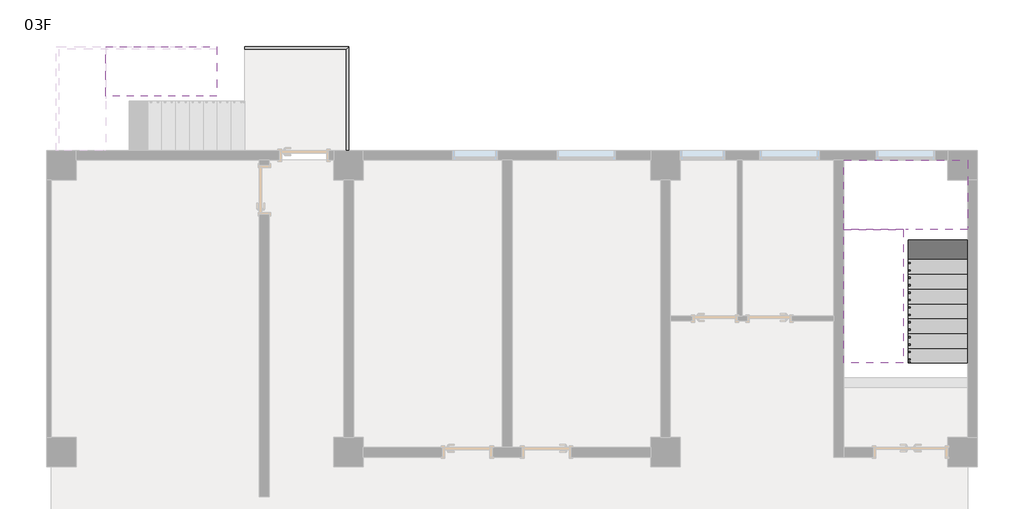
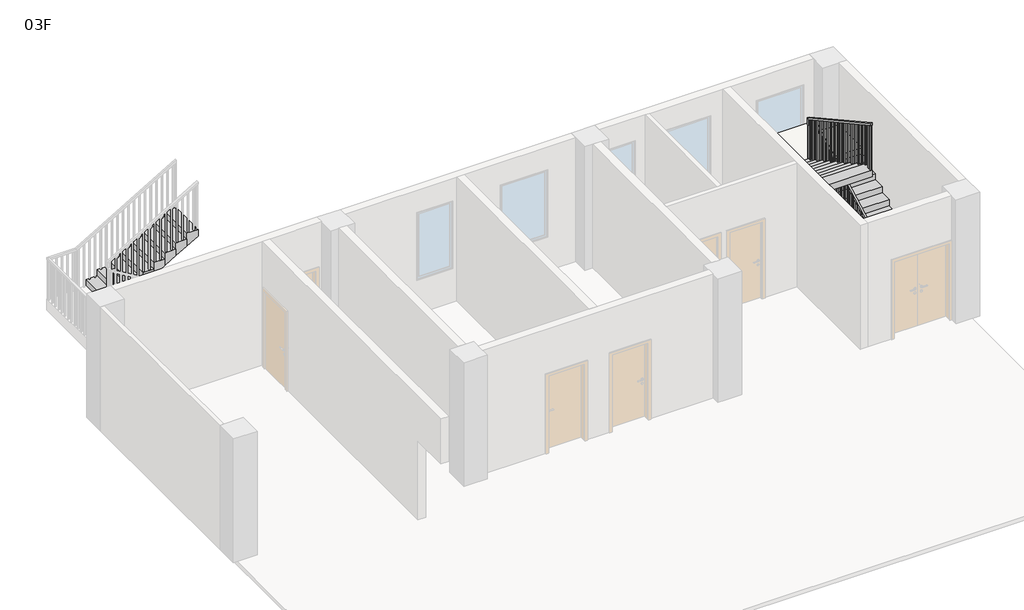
# One storey, part 3 of 3: 3 stair flights, 2 railings, 1 slab.
"""IFC4 building model written with IfcOpenShell, lengths in millimetres."""

from ifc_helpers import new_model, si_unit, frame, origin, place, context, project, spatial, polyline, outline, extrude, faceted_brep, element, save

model = new_model("IFC4")

# Units and contexts
model_context = context("Model", 3, world=origin())
ifc_project = project(units=[si_unit("LENGTHUNIT", "METRE", prefix="MILLI")], contexts=[model_context])

# Site, building, storey
site = spatial("IfcSite", under=ifc_project)
building = spatial("IfcBuilding", under=site)
storey = spatial("IfcBuildingStorey", under=building, Name="03F", Elevation=7200.0)

# Railings
placement = place(None, origin())
element("IfcRailing", 1, ObjectType="1100mm", at=placement, inside=storey, context=model_context, shape_type="SolidModel", body=[
    faceted_brep([(17300.4, 9300.0, 8465.0), (17300.4, 9300.0, 8407.9364389), (17350.4, 9300.0, 8407.9364389), (17350.4, 9300.0, 8465.0), (17300.4, 11925.4, 9908.97), (17300.4, 11975.4, 9879.4064389), (17350.4, 11975.4, 9879.4064389), (17350.4, 11925.4, 9908.97), (17300.4, 11925.4, 9950.0), (17300.4, 11975.4, 9900.0), (17350.4, 11975.4, 9900.0), (17350.4, 11925.4, 9950.0), (17300.4, 12000.4, 9950.0), (17300.4, 12000.4, 9900.0), (17350.4, 12050.4, 9900.0), (17350.4, 12050.4, 9950.0), (17225.4, 12000.4, 9950.0), (17225.4, 12000.4, 9900.0), (17225.4, 12050.4, 9900.0), (17225.4, 12050.4, 9950.0), (17199.6, 12000.4, 9950.0), (17199.6, 12050.4, 9950.0), (17149.6, 12050.4, 9900.0), (17149.6, 12000.4, 9900.0)], [[[0, 1, 2, 3]], [[1, 0, 4, 5]], [[2, 1, 5, 6]], [[3, 2, 6, 7]], [[0, 3, 7, 4]], [[5, 4, 8, 9]], [[6, 5, 9, 10]], [[7, 6, 10, 11]], [[4, 7, 11, 8]], [[9, 8, 12, 13]], [[10, 9, 13, 14]], [[11, 10, 14, 15]], [[8, 11, 15, 12]], [[13, 12, 16, 17]], [[14, 13, 17, 18]], [[15, 14, 18, 19]], [[12, 15, 19, 16]], [[20, 21, 22, 23]], [[17, 16, 20, 23]], [[18, 17, 23, 22]], [[19, 18, 22, 21]], [[16, 19, 21, 20]]]),
    faceted_brep([(17199.6, 12000.4, 9950.0), (17149.6, 12000.4, 9900.0), (17149.6, 12050.4, 9900.0), (17199.6, 12050.4, 9950.0), (17199.6, 12000.4, 10057.7164389), (17199.6, 12050.4, 10087.28), (17149.6, 12050.4, 10087.28), (17149.6, 12000.4, 10057.7164389)], [[[0, 1, 2, 3]], [[4, 5, 6, 7]], [[1, 0, 4, 7]], [[2, 1, 7, 6]], [[3, 2, 6, 5]], [[0, 3, 5, 4]]]),
    faceted_brep([(17199.6, 12050.4, 10087.28), (17199.6, 12000.4, 10057.7164389), (17149.6, 12000.4, 10057.7164389), (17149.6, 12050.4, 10087.28), (17199.6, 9300.0, 11600.0), (17149.6, 9300.0, 11600.0), (17149.6, 9300.0, 11542.9364389), (17199.6, 9300.0, 11542.9364389)], [[[0, 1, 2, 3]], [[4, 5, 6, 7]], [[1, 0, 4, 7]], [[2, 1, 7, 6]], [[3, 2, 6, 5]], [[0, 3, 5, 4]]]),
    extrude(outline(polyline([(9412.9, 10335.0), (9387.9, 10335.0), (9387.9, 11494.5914389), (9412.9, 11480.8414389), (9412.9, 10335.0)])), frame((17162.1, 0.0, 0.0), z_axis=(1.0, 0.0, 0.0), x_axis=(0.0, 1.0, 0.0)), (0.0, 0.0, 1.0), 25.0),
    extrude(outline(polyline([(9562.9, 10335.0), (9537.9, 10335.0), (9537.9, 11412.0914389), (9562.9, 11398.3414389), (9562.9, 10335.0)])), frame((17162.1, 0.0, 0.0), z_axis=(1.0, 0.0, 0.0), x_axis=(0.0, 1.0, 0.0)), (0.0, 0.0, 1.0), 25.0),
    extrude(outline(polyline([(9712.9, 10170.0), (9687.9, 10170.0), (9687.9, 11329.5914389), (9712.9, 11315.8414389), (9712.9, 10170.0)])), frame((17162.1, 0.0, 0.0), z_axis=(1.0, 0.0, 0.0), x_axis=(0.0, 1.0, 0.0)), (0.0, 0.0, 1.0), 25.0),
    extrude(outline(polyline([(9862.9, 10170.0), (9837.9, 10170.0), (9837.9, 11247.0914389), (9862.9, 11233.3414389), (9862.9, 10170.0)])), frame((17162.1, 0.0, 0.0), z_axis=(1.0, 0.0, 0.0), x_axis=(0.0, 1.0, 0.0)), (0.0, 0.0, 1.0), 25.0),
    extrude(outline(polyline([(10012.9, 10005.0), (9987.9, 10005.0), (9987.9, 11164.5914389), (10012.9, 11150.8414389), (10012.9, 10005.0)])), frame((17162.1, 0.0, 0.0), z_axis=(1.0, 0.0, 0.0), x_axis=(0.0, 1.0, 0.0)), (0.0, 0.0, 1.0), 25.0),
    extrude(outline(polyline([(10162.9, 10005.0), (10137.9, 10005.0), (10137.9, 11082.0914389), (10162.9, 11068.3414389), (10162.9, 10005.0)])), frame((17162.1, 0.0, 0.0), z_axis=(1.0, 0.0, 0.0), x_axis=(0.0, 1.0, 0.0)), (0.0, 0.0, 1.0), 25.0),
    extrude(outline(polyline([(10312.9, 9840.0), (10287.9, 9840.0), (10287.9, 10999.5914389), (10312.9, 10985.8414389), (10312.9, 9840.0)])), frame((17162.1, 0.0, 0.0), z_axis=(1.0, 0.0, 0.0), x_axis=(0.0, 1.0, 0.0)), (0.0, 0.0, 1.0), 25.0),
    extrude(outline(polyline([(10462.9, 9840.0), (10437.9, 9840.0), (10437.9, 10917.0914389), (10462.9, 10903.3414389), (10462.9, 9840.0)])), frame((17162.1, 0.0, 0.0), z_axis=(1.0, 0.0, 0.0), x_axis=(0.0, 1.0, 0.0)), (0.0, 0.0, 1.0), 25.0),
    extrude(outline(polyline([(10612.9, 9675.0), (10587.9, 9675.0), (10587.9, 10834.5914389), (10612.9, 10820.8414389), (10612.9, 9675.0)])), frame((17162.1, 0.0, 0.0), z_axis=(1.0, 0.0, 0.0), x_axis=(0.0, 1.0, 0.0)), (0.0, 0.0, 1.0), 25.0),
    extrude(outline(polyline([(10762.9, 9675.0), (10737.9, 9675.0), (10737.9, 10752.0914389), (10762.9, 10738.3414389), (10762.9, 9675.0)])), frame((17162.1, 0.0, 0.0), z_axis=(1.0, 0.0, 0.0), x_axis=(0.0, 1.0, 0.0)), (0.0, 0.0, 1.0), 25.0),
    extrude(outline(polyline([(10912.9, 9510.0), (10887.9, 9510.0), (10887.9, 10669.5914389), (10912.9, 10655.8414389), (10912.9, 9510.0)])), frame((17162.1, 0.0, 0.0), z_axis=(1.0, 0.0, 0.0), x_axis=(0.0, 1.0, 0.0)), (0.0, 0.0, 1.0), 25.0),
    extrude(outline(polyline([(11062.9, 9510.0), (11037.9, 9510.0), (11037.9, 10587.0914389), (11062.9, 10573.3414389), (11062.9, 9510.0)])), frame((17162.1, 0.0, 0.0), z_axis=(1.0, 0.0, 0.0), x_axis=(0.0, 1.0, 0.0)), (0.0, 0.0, 1.0), 25.0),
    extrude(outline(polyline([(11212.9, 9345.0), (11187.9, 9345.0), (11187.9, 10504.5914389), (11212.9, 10490.8414389), (11212.9, 9345.0)])), frame((17162.1, 0.0, 0.0), z_axis=(1.0, 0.0, 0.0), x_axis=(0.0, 1.0, 0.0)), (0.0, 0.0, 1.0), 25.0),
    extrude(outline(polyline([(11362.9, 9345.0), (11337.9, 9345.0), (11337.9, 10422.0914389), (11362.9, 10408.3414389), (11362.9, 9345.0)])), frame((17162.1, 0.0, 0.0), z_axis=(1.0, 0.0, 0.0), x_axis=(0.0, 1.0, 0.0)), (0.0, 0.0, 1.0), 25.0),
    extrude(outline(polyline([(11512.9, 9180.0), (11487.9, 9180.0), (11487.9, 10339.5914389), (11512.9, 10325.8414389), (11512.9, 9180.0)])), frame((17162.1, 0.0, 0.0), z_axis=(1.0, 0.0, 0.0), x_axis=(0.0, 1.0, 0.0)), (0.0, 0.0, 1.0), 25.0),
    extrude(outline(polyline([(11662.9, 9180.0), (11637.9, 9180.0), (11637.9, 10257.0914389), (11662.9, 10243.3414389), (11662.9, 9180.0)])), frame((17162.1, 0.0, 0.0), z_axis=(1.0, 0.0, 0.0), x_axis=(0.0, 1.0, 0.0)), (0.0, 0.0, 1.0), 25.0),
    extrude(outline(polyline([(11812.9, 9015.0), (11787.9, 9015.0), (11787.9, 10174.5914389), (11812.9, 10160.8414389), (11812.9, 9015.0)])), frame((17162.1, 0.0, 0.0), z_axis=(1.0, 0.0, 0.0), x_axis=(0.0, 1.0, 0.0)), (0.0, 0.0, 1.0), 25.0),
    extrude(outline(polyline([(11962.9, 9015.0), (11937.9, 9015.0), (11937.9, 10092.0914389), (11962.9, 10078.3414389), (11962.9, 9015.0)])), frame((17162.1, 0.0, 0.0), z_axis=(1.0, 0.0, 0.0), x_axis=(0.0, 1.0, 0.0)), (0.0, 0.0, 1.0), 25.0),
    extrude(outline(polyline([(17262.9, 12012.9), (17237.9, 12012.9), (17237.9, 12037.9), (17262.9, 12037.9), (17262.9, 12012.9)])), frame((0.0, 0.0, 8850.0), z_axis=(0.0, 0.0, 1.0), x_axis=(1.0, 0.0, 0.0)), (0.0, 0.0, 1.0), 1050.0),
    extrude(outline(polyline([(11912.5, 9844.8114389), (11937.5, 9858.5614389), (11937.5, 8685.0), (11912.5, 8685.0), (11912.5, 9844.8114389)])), frame((17312.9, 0.0, 0.0), z_axis=(1.0, 0.0, 0.0), x_axis=(0.0, 1.0, 0.0)), (0.0, 0.0, 1.0), 25.0),
    extrude(outline(polyline([(11762.5, 9762.3114389), (11787.5, 9776.0614389), (11787.5, 8685.0), (11762.5, 8685.0), (11762.5, 9762.3114389)])), frame((17312.9, 0.0, 0.0), z_axis=(1.0, 0.0, 0.0), x_axis=(0.0, 1.0, 0.0)), (0.0, 0.0, 1.0), 25.0),
    extrude(outline(polyline([(11612.5, 9679.8114389), (11637.5, 9693.5614389), (11637.5, 8520.0), (11612.5, 8520.0), (11612.5, 9679.8114389)])), frame((17312.9, 0.0, 0.0), z_axis=(1.0, 0.0, 0.0), x_axis=(0.0, 1.0, 0.0)), (0.0, 0.0, 1.0), 25.0),
    extrude(outline(polyline([(11462.5, 9597.3114389), (11487.5, 9611.0614389), (11487.5, 8520.0), (11462.5, 8520.0), (11462.5, 9597.3114389)])), frame((17312.9, 0.0, 0.0), z_axis=(1.0, 0.0, 0.0), x_axis=(0.0, 1.0, 0.0)), (0.0, 0.0, 1.0), 25.0),
    extrude(outline(polyline([(11312.5, 9514.8114389), (11337.5, 9528.5614389), (11337.5, 8355.0), (11312.5, 8355.0), (11312.5, 9514.8114389)])), frame((17312.9, 0.0, 0.0), z_axis=(1.0, 0.0, 0.0), x_axis=(0.0, 1.0, 0.0)), (0.0, 0.0, 1.0), 25.0),
    extrude(outline(polyline([(11162.5, 9432.3114389), (11187.5, 9446.0614389), (11187.5, 8355.0), (11162.5, 8355.0), (11162.5, 9432.3114389)])), frame((17312.9, 0.0, 0.0), z_axis=(1.0, 0.0, 0.0), x_axis=(0.0, 1.0, 0.0)), (0.0, 0.0, 1.0), 25.0),
    extrude(outline(polyline([(11012.5, 9349.8114389), (11037.5, 9363.5614389), (11037.5, 8190.0), (11012.5, 8190.0), (11012.5, 9349.8114389)])), frame((17312.9, 0.0, 0.0), z_axis=(1.0, 0.0, 0.0), x_axis=(0.0, 1.0, 0.0)), (0.0, 0.0, 1.0), 25.0),
    extrude(outline(polyline([(10862.5, 9267.3114389), (10887.5, 9281.0614389), (10887.5, 8190.0), (10862.5, 8190.0), (10862.5, 9267.3114389)])), frame((17312.9, 0.0, 0.0), z_axis=(1.0, 0.0, 0.0), x_axis=(0.0, 1.0, 0.0)), (0.0, 0.0, 1.0), 25.0),
    extrude(outline(polyline([(10712.5, 9184.8114389), (10737.5, 9198.5614389), (10737.5, 8025.0), (10712.5, 8025.0), (10712.5, 9184.8114389)])), frame((17312.9, 0.0, 0.0), z_axis=(1.0, 0.0, 0.0), x_axis=(0.0, 1.0, 0.0)), (0.0, 0.0, 1.0), 25.0),
    extrude(outline(polyline([(10562.5, 9102.3114389), (10587.5, 9116.0614389), (10587.5, 8025.0), (10562.5, 8025.0), (10562.5, 9102.3114389)])), frame((17312.9, 0.0, 0.0), z_axis=(1.0, 0.0, 0.0), x_axis=(0.0, 1.0, 0.0)), (0.0, 0.0, 1.0), 25.0),
    extrude(outline(polyline([(10412.5, 9019.8114389), (10437.5, 9033.5614389), (10437.5, 7860.0), (10412.5, 7860.0), (10412.5, 9019.8114389)])), frame((17312.9, 0.0, 0.0), z_axis=(1.0, 0.0, 0.0), x_axis=(0.0, 1.0, 0.0)), (0.0, 0.0, 1.0), 25.0),
    extrude(outline(polyline([(10262.5, 8937.3114389), (10287.5, 8951.0614389), (10287.5, 7860.0), (10262.5, 7860.0), (10262.5, 8937.3114389)])), frame((17312.9, 0.0, 0.0), z_axis=(1.0, 0.0, 0.0), x_axis=(0.0, 1.0, 0.0)), (0.0, 0.0, 1.0), 25.0),
    extrude(outline(polyline([(10112.5, 8854.8114389), (10137.5, 8868.5614389), (10137.5, 7695.0), (10112.5, 7695.0), (10112.5, 8854.8114389)])), frame((17312.9, 0.0, 0.0), z_axis=(1.0, 0.0, 0.0), x_axis=(0.0, 1.0, 0.0)), (0.0, 0.0, 1.0), 25.0),
    extrude(outline(polyline([(9962.5, 8772.3114389), (9987.5, 8786.0614389), (9987.5, 7695.0), (9962.5, 7695.0), (9962.5, 8772.3114389)])), frame((17312.9, 0.0, 0.0), z_axis=(1.0, 0.0, 0.0), x_axis=(0.0, 1.0, 0.0)), (0.0, 0.0, 1.0), 25.0),
    extrude(outline(polyline([(9812.5, 8689.8114389), (9837.5, 8703.5614389), (9837.5, 7530.0), (9812.5, 7530.0), (9812.5, 8689.8114389)])), frame((17312.9, 0.0, 0.0), z_axis=(1.0, 0.0, 0.0), x_axis=(0.0, 1.0, 0.0)), (0.0, 0.0, 1.0), 25.0),
    extrude(outline(polyline([(9662.5, 8607.3114389), (9687.5, 8621.0614389), (9687.5, 7530.0), (9662.5, 7530.0), (9662.5, 8607.3114389)])), frame((17312.9, 0.0, 0.0), z_axis=(1.0, 0.0, 0.0), x_axis=(0.0, 1.0, 0.0)), (0.0, 0.0, 1.0), 25.0),
    extrude(outline(polyline([(9512.5, 8524.8114389), (9537.5, 8538.5614389), (9537.5, 7365.0), (9512.5, 7365.0), (9512.5, 8524.8114389)])), frame((17312.9, 0.0, 0.0), z_axis=(1.0, 0.0, 0.0), x_axis=(0.0, 1.0, 0.0)), (0.0, 0.0, 1.0), 25.0),
    extrude(outline(polyline([(9362.5, 8442.3114389), (9387.5, 8456.0614389), (9387.5, 7365.0), (9362.5, 7365.0), (9362.5, 8442.3114389)])), frame((17312.9, 0.0, 0.0), z_axis=(1.0, 0.0, 0.0), x_axis=(0.0, 1.0, 0.0)), (0.0, 0.0, 1.0), 25.0),
    extrude(outline(polyline([(17187.1, 12037.9), (17187.1, 12012.9), (17162.1, 12012.9), (17162.1, 12037.9), (17187.1, 12037.9)])), frame((0.0, 0.0, 8850.0), z_axis=(0.0, 0.0, 1.0), x_axis=(1.0, 0.0, 0.0)), (0.0, 0.0, 1.0), 1050.0),
    extrude(outline(polyline([(17312.9, 12012.9), (17312.9, 12037.9), (17337.9, 12037.9), (17337.9, 12012.9), (17312.9, 12012.9)])), frame((0.0, 0.0, 8850.0), z_axis=(0.0, 0.0, 1.0), x_axis=(1.0, 0.0, 0.0)), (0.0, 0.0, 1.0), 1050.0),
    extrude(outline(polyline([(17312.9, 11987.5), (17312.9, 12012.5), (17337.9, 12012.5), (17337.9, 11987.5), (17312.9, 11987.5)])), frame((0.0, 0.0, 8850.0), z_axis=(0.0, 0.0, 1.0), x_axis=(1.0, 0.0, 0.0)), (0.0, 0.0, 1.0), 1050.0),
    extrude(outline(polyline([(9325.0, 10335.0), (9300.0, 10335.0), (9300.0, 11542.9364389), (9325.0, 11529.1864389), (9325.0, 10335.0)])), frame((17162.1, 0.0, 0.0), z_axis=(1.0, 0.0, 0.0), x_axis=(0.0, 1.0, 0.0)), (0.0, 0.0, 1.0), 25.0),
    extrude(outline(polyline([(9300.0, 8407.9364389), (9325.0, 8421.6864389), (9325.0, 7365.0), (9300.0, 7365.0), (9300.0, 8407.9364389)])), frame((17312.9, 0.0, 0.0), z_axis=(1.0, 0.0, 0.0), x_axis=(0.0, 1.0, 0.0)), (0.0, 0.0, 1.0), 25.0),
])
element("IfcRailing", 2, ObjectType="1100mm", at=placement, inside=storey, context=model_context, shape_type="SolidModel", body=[
    faceted_brep([(3900.0, 15699.6, 8300.0), (3900.0, 15699.6, 8250.0), (3900.0, 15649.6, 8250.0), (3900.0, 15649.6, 8300.0), (6000.0, 15699.6, 8300.0), (6000.0, 15699.6, 8250.0), (5950.0, 15649.6, 8250.0), (5950.0, 15649.6, 8300.0), (6000.0, 13600.0, 8300.0), (5950.0, 13600.0, 8300.0), (5950.0, 13600.0, 8250.0), (6000.0, 13600.0, 8250.0)], [[[0, 1, 2, 3]], [[1, 0, 4, 5]], [[2, 1, 5, 6]], [[3, 2, 6, 7]], [[0, 3, 7, 4]], [[8, 9, 10, 11]], [[5, 4, 8, 11]], [[6, 5, 11, 10]], [[7, 6, 10, 9]], [[4, 7, 9, 8]]]),
    extrude(outline(polyline([(5962.5, 13762.1), (5987.5, 13762.1), (5987.5, 13737.1), (5962.5, 13737.1), (5962.5, 13762.1)])), frame((0.0, 0.0, 7200.0), z_axis=(0.0, 0.0, 1.0), x_axis=(1.0, 0.0, 0.0)), (0.0, 0.0, 1.0), 1050.0),
    extrude(outline(polyline([(5962.5, 14037.1), (5987.5, 14037.1), (5987.5, 14012.1), (5962.5, 14012.1), (5962.5, 14037.1)])), frame((0.0, 0.0, 7200.0), z_axis=(0.0, 0.0, 1.0), x_axis=(1.0, 0.0, 0.0)), (0.0, 0.0, 1.0), 1050.0),
    extrude(outline(polyline([(5962.5, 14312.1), (5987.5, 14312.1), (5987.5, 14287.1), (5962.5, 14287.1), (5962.5, 14312.1)])), frame((0.0, 0.0, 7200.0), z_axis=(0.0, 0.0, 1.0), x_axis=(1.0, 0.0, 0.0)), (0.0, 0.0, 1.0), 1050.0),
    extrude(outline(polyline([(5962.5, 14587.1), (5987.5, 14587.1), (5987.5, 14562.1), (5962.5, 14562.1), (5962.5, 14587.1)])), frame((0.0, 0.0, 7200.0), z_axis=(0.0, 0.0, 1.0), x_axis=(1.0, 0.0, 0.0)), (0.0, 0.0, 1.0), 1050.0),
    extrude(outline(polyline([(5962.5, 14862.1), (5987.5, 14862.1), (5987.5, 14837.1), (5962.5, 14837.1), (5962.5, 14862.1)])), frame((0.0, 0.0, 7200.0), z_axis=(0.0, 0.0, 1.0), x_axis=(1.0, 0.0, 0.0)), (0.0, 0.0, 1.0), 1050.0),
    extrude(outline(polyline([(5962.5, 15137.1), (5987.5, 15137.1), (5987.5, 15112.1), (5962.5, 15112.1), (5962.5, 15137.1)])), frame((0.0, 0.0, 7200.0), z_axis=(0.0, 0.0, 1.0), x_axis=(1.0, 0.0, 0.0)), (0.0, 0.0, 1.0), 1050.0),
    extrude(outline(polyline([(5962.5, 15412.1), (5987.5, 15412.1), (5987.5, 15387.1), (5962.5, 15387.1), (5962.5, 15412.1)])), frame((0.0, 0.0, 7200.0), z_axis=(0.0, 0.0, 1.0), x_axis=(1.0, 0.0, 0.0)), (0.0, 0.0, 1.0), 1050.0),
    extrude(outline(polyline([(5812.5, 15662.1), (5812.5, 15687.1), (5837.5, 15687.1), (5837.5, 15662.1), (5812.5, 15662.1)])), frame((0.0, 0.0, 7200.0), z_axis=(0.0, 0.0, 1.0), x_axis=(1.0, 0.0, 0.0)), (0.0, 0.0, 1.0), 1050.0),
    extrude(outline(polyline([(5537.5, 15662.1), (5537.5, 15687.1), (5562.5, 15687.1), (5562.5, 15662.1), (5537.5, 15662.1)])), frame((0.0, 0.0, 7200.0), z_axis=(0.0, 0.0, 1.0), x_axis=(1.0, 0.0, 0.0)), (0.0, 0.0, 1.0), 1050.0),
    extrude(outline(polyline([(5262.5, 15662.1), (5262.5, 15687.1), (5287.5, 15687.1), (5287.5, 15662.1), (5262.5, 15662.1)])), frame((0.0, 0.0, 7200.0), z_axis=(0.0, 0.0, 1.0), x_axis=(1.0, 0.0, 0.0)), (0.0, 0.0, 1.0), 1050.0),
    extrude(outline(polyline([(4987.5, 15662.1), (4987.5, 15687.1), (5012.5, 15687.1), (5012.5, 15662.1), (4987.5, 15662.1)])), frame((0.0, 0.0, 7200.0), z_axis=(0.0, 0.0, 1.0), x_axis=(1.0, 0.0, 0.0)), (0.0, 0.0, 1.0), 1050.0),
    extrude(outline(polyline([(4712.5, 15662.1), (4712.5, 15687.1), (4737.5, 15687.1), (4737.5, 15662.1), (4712.5, 15662.1)])), frame((0.0, 0.0, 7200.0), z_axis=(0.0, 0.0, 1.0), x_axis=(1.0, 0.0, 0.0)), (0.0, 0.0, 1.0), 1050.0),
    extrude(outline(polyline([(4437.5, 15662.1), (4437.5, 15687.1), (4462.5, 15687.1), (4462.5, 15662.1), (4437.5, 15662.1)])), frame((0.0, 0.0, 7200.0), z_axis=(0.0, 0.0, 1.0), x_axis=(1.0, 0.0, 0.0)), (0.0, 0.0, 1.0), 1050.0),
    extrude(outline(polyline([(4162.5, 15662.1), (4162.5, 15687.1), (4187.5, 15687.1), (4187.5, 15662.1), (4162.5, 15662.1)])), frame((0.0, 0.0, 7200.0), z_axis=(0.0, 0.0, 1.0), x_axis=(1.0, 0.0, 0.0)), (0.0, 0.0, 1.0), 1050.0),
    extrude(outline(polyline([(5962.5, 15662.1), (5962.5, 15687.1), (5987.5, 15687.1), (5987.5, 15662.1), (5962.5, 15662.1)])), frame((0.0, 0.0, 7200.0), z_axis=(0.0, 0.0, 1.0), x_axis=(1.0, 0.0, 0.0)), (0.0, 0.0, 1.0), 1050.0),
    extrude(outline(polyline([(5962.5, 13625.0), (5987.5, 13625.0), (5987.5, 13600.0), (5962.5, 13600.0), (5962.5, 13625.0)])), frame((0.0, 0.0, 7200.0), z_axis=(0.0, 0.0, 1.0), x_axis=(1.0, 0.0, 0.0)), (0.0, 0.0, 1.0), 1050.0),
    extrude(outline(polyline([(3900.0, 15662.1), (3900.0, 15687.1), (3925.0, 15687.1), (3925.0, 15662.1), (3900.0, 15662.1)])), frame((0.0, 0.0, 7200.0), z_axis=(0.0, 0.0, 1.0), x_axis=(1.0, 0.0, 0.0)), (0.0, 0.0, 1.0), 1050.0),
])

# Slab
element("IfcSlab", 3, ObjectType="300mm 厚度", at=placement, inside=storey, context=model_context, shape_type="Brep", body=[
    faceted_brep([(17300.0, 12000.0, 8850.0), (18500.0, 12000.0, 8850.0), (18500.0, 12065.8012421, 8850.0), (18500.0, 13400.0, 8850.0), (16000.0, 13400.0, 8850.0), (16000.0, 12234.1987579, 8850.0), (16000.0, 12000.0, 8850.0), (17200.0, 12000.0, 8850.0), (17300.0, 12000.0, 8550.0), (17300.0, 12000.0, 8513.8093168), (18500.0, 12000.0, 8513.8093168), (18500.0, 12000.0, 8685.0), (18500.0, 12065.8012421, 8550.0), (18500.0, 13400.0, 8550.0), (16000.0, 13400.0, 8550.0), (16000.0, 12234.1987579, 8550.0), (16000.0, 12000.0, 8678.8093168), (17200.0, 12000.0, 8678.8093168), (17200.0, 12000.0, 8550.0), (17200.0, 12234.1987579, 8550.0), (17300.0, 12065.8012421, 8550.0)], [[[0, 1, 2, 3, 4, 5, 6, 7]], [[1, 0, 8, 9, 10, 11]], [[1, 11, 10, 12, 13, 3, 2]], [[4, 3, 13, 14]], [[4, 14, 15, 16, 6, 5]], [[7, 6, 16, 17]], [[0, 7, 17, 18, 8]], [[18, 19, 15, 14, 13, 12, 20, 8]], [[19, 18, 17]], [[20, 12, 10, 9]], [[8, 20, 9]], [[15, 19, 17, 16]]]),
])

# Stair flights
element("IfcStairFlight", 4, ObjectType="150mm 结构深度", at=placement, inside=storey, context=model_context, shape_type="Brep", body=[
    faceted_brep([(17300.0, 9600.0, 7365.0), (17300.0, 9300.0, 7365.0), (18500.0, 9300.0, 7365.0), (18500.0, 9600.0, 7365.0), (17300.0, 9600.0, 7200.0), (17300.0, 9300.0, 7200.0), (18500.0, 9300.0, 7200.0), (18500.0, 9600.0, 7200.0), (17300.0, 9900.0, 7530.0), (17300.0, 9600.0, 7530.0), (18500.0, 9600.0, 7530.0), (18500.0, 9900.0, 7530.0), (17300.0, 9900.0, 7358.8093168), (17300.0, 9611.2557876, 7200.0), (18500.0, 9611.2557876, 7200.0), (18500.0, 9900.0, 7358.8093168), (17300.0, 10200.0, 7695.0), (17300.0, 9900.0, 7695.0), (18500.0, 9900.0, 7695.0), (18500.0, 10200.0, 7695.0), (17300.0, 10200.0, 7523.8093168), (18500.0, 10200.0, 7523.8093168), (17300.0, 10500.0, 7860.0), (17300.0, 10200.0, 7860.0), (18500.0, 10200.0, 7860.0), (18500.0, 10500.0, 7860.0), (17300.0, 10500.0, 7688.8093168), (18500.0, 10500.0, 7688.8093168), (17300.0, 10800.0, 8025.0), (17300.0, 10500.0, 8025.0), (18500.0, 10500.0, 8025.0), (18500.0, 10800.0, 8025.0), (17300.0, 10800.0, 7853.8093168), (18500.0, 10800.0, 7853.8093168), (17300.0, 11100.0, 8190.0), (17300.0, 10800.0, 8190.0), (18500.0, 10800.0, 8190.0), (18500.0, 11100.0, 8190.0), (17300.0, 11100.0, 8018.8093168), (18500.0, 11100.0, 8018.8093168), (17300.0, 11400.0, 8355.0), (17300.0, 11100.0, 8355.0), (18500.0, 11100.0, 8355.0), (18500.0, 11400.0, 8355.0), (17300.0, 11400.0, 8183.8093168), (18500.0, 11400.0, 8183.8093168), (17300.0, 11700.0, 8520.0), (17300.0, 11400.0, 8520.0), (18500.0, 11400.0, 8520.0), (18500.0, 11700.0, 8520.0), (17300.0, 11700.0, 8348.8093168), (18500.0, 11700.0, 8348.8093168), (17300.0, 12000.0, 8685.0), (17300.0, 11700.0, 8685.0), (18500.0, 11700.0, 8685.0), (18500.0, 12000.0, 8685.0), (17300.0, 12000.0, 8550.0), (17300.0, 12000.0, 8513.8093168), (18500.0, 12000.0, 8513.8093168)], [[[0, 1, 2, 3]], [[1, 0, 4, 5]], [[2, 1, 5, 6]], [[3, 2, 6, 7]], [[8, 9, 10, 11]], [[4, 0, 9, 8, 12, 13]], [[0, 3, 10, 9]], [[3, 7, 14, 15, 11, 10]], [[16, 17, 18, 19]], [[17, 16, 20, 12, 8]], [[8, 11, 18, 17]], [[19, 18, 11, 15, 21]], [[22, 23, 24, 25]], [[23, 22, 26, 20, 16]], [[16, 19, 24, 23]], [[25, 24, 19, 21, 27]], [[28, 29, 30, 31]], [[29, 28, 32, 26, 22]], [[22, 25, 30, 29]], [[31, 30, 25, 27, 33]], [[34, 35, 36, 37]], [[35, 34, 38, 32, 28]], [[28, 31, 36, 35]], [[37, 36, 31, 33, 39]], [[40, 41, 42, 43]], [[41, 40, 44, 38, 34]], [[34, 37, 42, 41]], [[43, 42, 37, 39, 45]], [[46, 47, 48, 49]], [[47, 46, 50, 44, 40]], [[40, 43, 48, 47]], [[49, 48, 43, 45, 51]], [[52, 53, 54, 55]], [[53, 52, 56, 57, 50, 46]], [[46, 49, 54, 53]], [[55, 54, 49, 51, 58]], [[52, 55, 58, 57, 56]], [[5, 4, 13, 14, 7, 6]], [[14, 13, 12, 20, 26, 32, 38, 44, 50, 57, 58, 51, 45, 39, 33, 27, 21, 15]]]),
])
element("IfcStairFlight", 5, ObjectType="150mm 结构深度", at=placement, inside=storey, context=model_context, shape_type="Brep", body=[
    faceted_brep([(17200.0, 11700.0, 9015.0), (17200.0, 12000.0, 9015.0), (16000.0, 12000.0, 9015.0), (16000.0, 11700.0, 9015.0), (17200.0, 11700.0, 8843.8093168), (17200.0, 12000.0, 8678.8093168), (16000.0, 12000.0, 8678.8093168), (16000.0, 12000.0, 8850.0), (16000.0, 11700.0, 8843.8093168), (17200.0, 11400.0, 9180.0), (17200.0, 11700.0, 9180.0), (16000.0, 11700.0, 9180.0), (16000.0, 11400.0, 9180.0), (17200.0, 11400.0, 9008.8093168), (16000.0, 11400.0, 9008.8093168), (17200.0, 11100.0, 9345.0), (17200.0, 11400.0, 9345.0), (16000.0, 11400.0, 9345.0), (16000.0, 11100.0, 9345.0), (17200.0, 11100.0, 9173.8093168), (16000.0, 11100.0, 9173.8093168), (17200.0, 10800.0, 9510.0), (17200.0, 11100.0, 9510.0), (16000.0, 11100.0, 9510.0), (16000.0, 10800.0, 9510.0), (17200.0, 10800.0, 9338.8093168), (16000.0, 10800.0, 9338.8093168), (17200.0, 10500.0, 9675.0), (17200.0, 10800.0, 9675.0), (16000.0, 10800.0, 9675.0), (16000.0, 10500.0, 9675.0), (17200.0, 10500.0, 9503.8093168), (16000.0, 10500.0, 9503.8093168), (17200.0, 10200.0, 9840.0), (17200.0, 10500.0, 9840.0), (16000.0, 10500.0, 9840.0), (16000.0, 10200.0, 9840.0), (17200.0, 10200.0, 9668.8093168), (16000.0, 10200.0, 9668.8093168), (17200.0, 9900.0, 10005.0), (17200.0, 10200.0, 10005.0), (16000.0, 10200.0, 10005.0), (16000.0, 9900.0, 10005.0), (17200.0, 9900.0, 9833.8093168), (16000.0, 9900.0, 9833.8093168), (17200.0, 9600.0, 10170.0), (17200.0, 9900.0, 10170.0), (16000.0, 9900.0, 10170.0), (16000.0, 9600.0, 10170.0), (17200.0, 9600.0, 9998.8093168), (16000.0, 9600.0, 9998.8093168), (17200.0, 9300.0, 10335.0), (17200.0, 9600.0, 10335.0), (16000.0, 9600.0, 10335.0), (16000.0, 9300.0, 10335.0), (17200.0, 9300.0, 10163.8093168), (16000.0, 9300.0, 10163.8093168)], [[[0, 1, 2, 3]], [[1, 0, 4, 5]], [[2, 1, 5, 6, 7]], [[3, 2, 7, 6, 8]], [[9, 10, 11, 12]], [[10, 9, 13, 4, 0]], [[11, 10, 0, 3]], [[12, 11, 3, 8, 14]], [[15, 16, 17, 18]], [[16, 15, 19, 13, 9]], [[17, 16, 9, 12]], [[18, 17, 12, 14, 20]], [[21, 22, 23, 24]], [[22, 21, 25, 19, 15]], [[23, 22, 15, 18]], [[24, 23, 18, 20, 26]], [[27, 28, 29, 30]], [[28, 27, 31, 25, 21]], [[29, 28, 21, 24]], [[30, 29, 24, 26, 32]], [[33, 34, 35, 36]], [[34, 33, 37, 31, 27]], [[35, 34, 27, 30]], [[36, 35, 30, 32, 38]], [[39, 40, 41, 42]], [[40, 39, 43, 37, 33]], [[41, 40, 33, 36]], [[42, 41, 36, 38, 44]], [[45, 46, 47, 48]], [[46, 45, 49, 43, 39]], [[47, 46, 39, 42]], [[48, 47, 42, 44, 50]], [[51, 52, 53, 54]], [[52, 51, 55, 49, 45]], [[53, 52, 45, 48]], [[54, 53, 48, 50, 56]], [[51, 54, 56, 55]], [[5, 4, 13, 19, 25, 31, 37, 43, 49, 55, 56, 50, 44, 38, 32, 26, 20, 14, 8, 6]]]),
])
element("IfcStairFlight", 6, ObjectType="150mm 结构深度", at=placement, inside=storey, context=model_context, shape_type="Brep", body=[
    faceted_brep([(1380.0, 15700.0, 9180.0), (1100.0, 15700.0, 9180.0), (1100.0, 14700.0, 9180.0), (1380.0, 14700.0, 9180.0), (1380.0, 15700.0, 9005.8928571), (1100.0, 15700.0, 8840.8928571), (1100.0, 15700.0, 9015.0), (1100.0, 14700.0, 8840.8928571), (1380.0, 14700.0, 9005.8928571), (1660.0, 15700.0, 9345.0), (1380.0, 15700.0, 9345.0), (1380.0, 14700.0, 9345.0), (1660.0, 14700.0, 9345.0), (1660.0, 15700.0, 9170.8928571), (1660.0, 14700.0, 9170.8928571), (1940.0, 15700.0, 9510.0), (1660.0, 15700.0, 9510.0), (1660.0, 14700.0, 9510.0), (1940.0, 14700.0, 9510.0), (1940.0, 15700.0, 9335.8928571), (1940.0, 14700.0, 9335.8928571), (2220.0, 15700.0, 9675.0), (1940.0, 15700.0, 9675.0), (1940.0, 14700.0, 9675.0), (2220.0, 14700.0, 9675.0), (2220.0, 15700.0, 9500.8928571), (2220.0, 14700.0, 9500.8928571), (2500.0, 15700.0, 9840.0), (2220.0, 15700.0, 9840.0), (2220.0, 14700.0, 9840.0), (2500.0, 14700.0, 9840.0), (2500.0, 15700.0, 9665.8928571), (2500.0, 14700.0, 9665.8928571), (2780.0, 15700.0, 10005.0), (2500.0, 15700.0, 10005.0), (2500.0, 14700.0, 10005.0), (2780.0, 14700.0, 10005.0), (2780.0, 15700.0, 9830.8928571), (2780.0, 14700.0, 9830.8928571), (3060.0, 15700.0, 10170.0), (2780.0, 15700.0, 10170.0), (2780.0, 14700.0, 10170.0), (3060.0, 14700.0, 10170.0), (3060.0, 15700.0, 9995.8928571), (3060.0, 14700.0, 9995.8928571), (3340.0, 15700.0, 10335.0), (3060.0, 15700.0, 10335.0), (3060.0, 14700.0, 10335.0), (3340.0, 14700.0, 10335.0), (3340.0, 15700.0, 10160.8928571), (3340.0, 14700.0, 10160.8928571)], [[[0, 1, 2, 3]], [[1, 0, 4, 5, 6]], [[2, 1, 6, 5, 7]], [[3, 2, 7, 8]], [[9, 10, 11, 12]], [[10, 9, 13, 4, 0]], [[11, 10, 0, 3]], [[12, 11, 3, 8, 14]], [[15, 16, 17, 18]], [[16, 15, 19, 13, 9]], [[17, 16, 9, 12]], [[18, 17, 12, 14, 20]], [[21, 22, 23, 24]], [[22, 21, 25, 19, 15]], [[23, 22, 15, 18]], [[24, 23, 18, 20, 26]], [[27, 28, 29, 30]], [[28, 27, 31, 25, 21]], [[29, 28, 21, 24]], [[30, 29, 24, 26, 32]], [[33, 34, 35, 36]], [[34, 33, 37, 31, 27]], [[35, 34, 27, 30]], [[36, 35, 30, 32, 38]], [[39, 40, 41, 42]], [[40, 39, 43, 37, 33]], [[41, 40, 33, 36]], [[42, 41, 36, 38, 44]], [[45, 46, 47, 48]], [[46, 45, 49, 43, 39]], [[47, 46, 39, 42]], [[48, 47, 42, 44, 50]], [[45, 48, 50, 49]], [[5, 4, 13, 19, 25, 31, 37, 43, 49, 50, 44, 38, 32, 26, 20, 14, 8, 7]]]),
])

save(model, "model.ifc")
